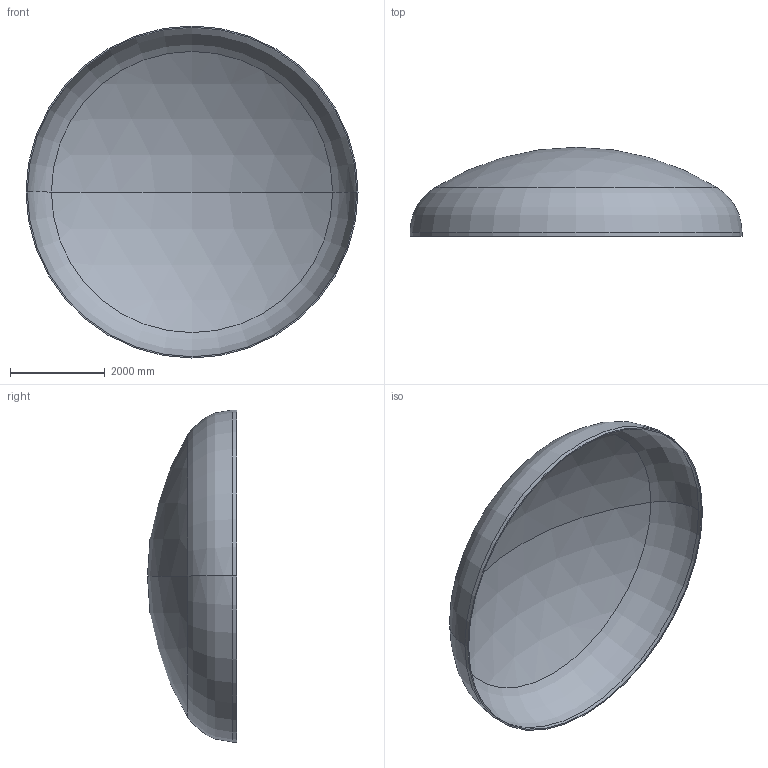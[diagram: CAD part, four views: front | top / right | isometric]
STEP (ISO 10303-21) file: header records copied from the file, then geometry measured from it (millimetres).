
FILE_DESCRIPTION (( 'STEP AP203' ), '1' );
FILE_NAME ('DIN 28013 Korbbogenform_-_Boden DIN 28013 - 7000 x 85 - I - s=27.step', '2016-07-04T10:46:16', ( '' ), ( '' ), 'SwSTEP 2.0', 'SolidWorks 2013', '' );
FILE_SCHEMA (( 'CONFIG_CONTROL_DESIGN' ));
Length unit declared in the file: millimetre
Products named in the file (1): DIN 28013 Korbbogenform_-_Boden DIN 28013 - 7000 x 85 - I - s=27
Bounding box: 7000 x 1877.43 x 7000 mm (x, y, z)
Volume: 1482662352.7 mm3; surface area: 110419794.4 mm2
Topology: 1 solids, 1 shells, 13 faces, 24 edges, 14 vertices
Faces by surface type: torus 4, cylinder 4, sphere 4, plane 1
Entity records: 407 total; most frequent: DIRECTION 72, CARTESIAN_POINT 52, ORIENTED_EDGE 48, AXIS2_PLACEMENT_3D 34, EDGE_CURVE 24, CIRCLE 20, EDGE_LOOP 14, VERTEX_POINT 14
